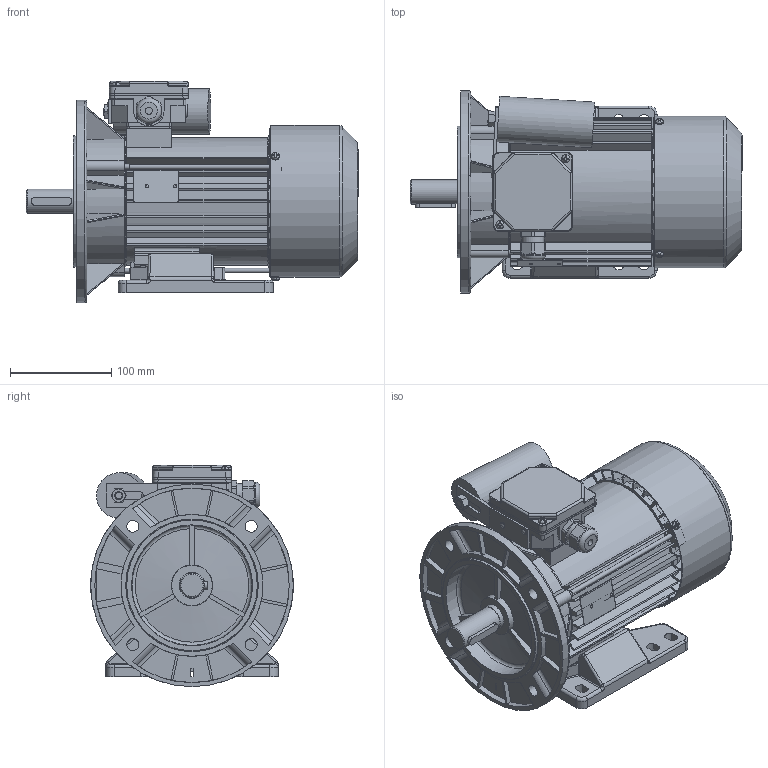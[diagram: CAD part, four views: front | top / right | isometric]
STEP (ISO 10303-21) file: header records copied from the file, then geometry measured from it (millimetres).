
FILE_DESCRIPTION( ( 'Unknown' ), '1' );
FILE_NAME( 'G:/Poczta Tk-1/STP/w.m.90/SEh90/SELh90-.L.stp', 'Unknown', ( 'K. Szlosek' ), ( 'BESEL S.A.' ), 'PSStep 17.0.49', 'Unknown', ' ' );
FILE_SCHEMA( ( 'AUTOMOTIVE_DESIGN { 1 0 10303 214 1 1 1 1 }' ) );
Length unit declared in the file: millimetre
Products named in the file (38): skrznka zaciskowa jednofazowa ; K4-2820 Uszczelka nr 2 Sh71,80; K2-1131 Podstawa skrzynki zaciskowej jednofazowa; K4-2999 Uchwyt kondensatora; Nit 4x12 po skróceniu; nakrętka M8; K4-0898 Tulejka uszczelniająca; Dławnica M20x1,5; K2-0860 Pokrywka skrzynki zaciskowej; Assem1; K1-1257 Kadłub S(E,M)h80-C i D; K3-7810 wał S(E,M)h90-.L; K2-1715 Przewietrznik; Wpust A8x7x40; K3-2964 Osłona przewietrznika Sh80,90; K4-2320 Uszczelka nr 1 Sh71,80; K3-7771 Tarcza łożyskowa P S(E,M)h90-L tymczasowy; Wkręt samogwintujący M4x8; Nitokołek A 2x6; Łożysko 6205; Pierścień osadczy sprężyn. Z25; Tabliczka znamionowa 32x44; Śruba ściągająca E_M5x168; Kondensator zb 25-31,5uF Comar; Wkręt samogwintujący M4x12; K3-7772 Tarcza kołnierzowa 90 B5 Sh; K1-1130 Łapa wymiar 90
Assembly tree (56 placements, depth 3):
  Assem1
    K1-1257 Kadłub S(E,M)h80-C i D
    K3-7810 wał S(E,M)h90-.L
    K2-1715 Przewietrznik
    Wpust A8x7x40
    K3-2964 Osłona przewietrznika Sh80,90
    K4-2320 Uszczelka nr 1 Sh71,80
    K3-7771 Tarcza łożyskowa P S(E,M)h90-L tymczasowy
    Wkręt samogwintujący M4x8  x3
    Nitokołek A 2x6  x2
    Łożysko 6205  x2
    Łożysko 6205  x2
    Łożysko 6205  x2
    Łożysko 6205  x2
    Łożysko 6205  x2
    Łożysko 6205  x2
    Łożysko 6205  x2
    Łożysko 6205  x2
    Łożysko 6205  x2
    Łożysko 6205  x2
    Łożysko 6205  x2
    Łożysko 6205  x2
    Pierścień osadczy sprężyn. Z25
    Tabliczka znamionowa 32x44
    Śruba ściągająca E_M5x168  x3
    Kondensator zb 25-31,5uF Comar
    Wkręt samogwintujący M4x12  x2
    K3-7772 Tarcza kołnierzowa 90 B5 Sh
    K1-1130 Łapa wymiar 90
    skrznka zaciskowa jednofazowa 
      K4-2820 Uszczelka nr 2 Sh71,80
      K2-1131 Podstawa skrzynki zaciskowej jednofazowa
      K4-2999 Uchwyt kondensatora
      Nit 4x12 po skróceniu  x2
      nakrętka M8
      K4-0898 Tulejka uszczelniająca
      Dławnica M20x1,5
      K2-0860 Pokrywka skrzynki zaciskowej
Bounding box: 327.8 x 200 x 218.5 mm (x, y, z)
Volume: 1367576.1 mm3; surface area: 762117.9 mm2
Topology: 55 solids, 75 shells, 3284 faces, 9167 edges, 5970 vertices
Faces by surface type: plane 1669, cylinder 1092, cone 185, torus 163, bspline 117, sphere 58
Full cylindrical faces by diameter (mm): 2 x4, 2.4 x2, 3 x1, 3.7 x11, 4 x8, 4.134 x3, 4.3 x2, 4.5 x3, 4.6 x3, 4.8 x4, 5 x7, 5.5 x3, 6 x2, 6.5 x5, 6.647 x1, 7 x1, 8 x10, 10 x2, 12 x4, 18.376 x1, 18.38 x1, 19.3 x1, 19.5 x1, 19.9 x1, 20 x1, 22.3 x1, 23.9 x1, 24 x1, 25 x6, 25.4 x2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
Entity records: 152738 total; most frequent: CARTESIAN_POINT 53798, ORIENTED_EDGE 16734, DIRECTION 16319, EDGE_CURVE 8367, AXIS2_PLACEMENT_3D 5932, VERTEX_POINT 5612, LINE 4455, VECTOR 4455
